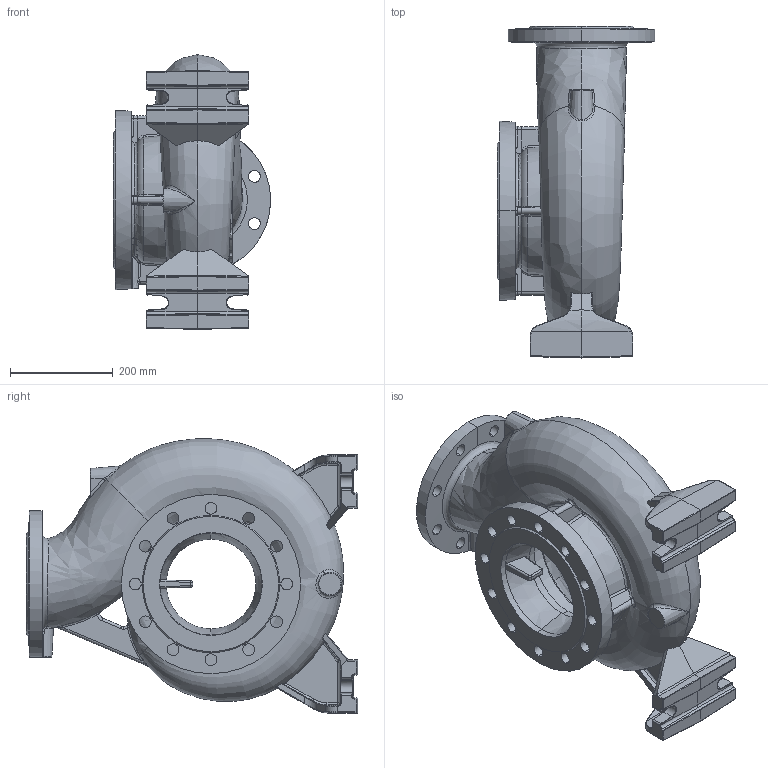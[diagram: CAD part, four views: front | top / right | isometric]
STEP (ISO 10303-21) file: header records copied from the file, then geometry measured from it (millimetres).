
FILE_DESCRIPTION (( 'STEP AP203' ), '1' );
FILE_NAME ('NM 150-200.STEP', '2016-11-10T10:05:09', ( '' ), ( '' ), 'SwSTEP 2.0', 'SolidWorks 2015', '' );
FILE_SCHEMA (( 'CONFIG_CONTROL_DESIGN' ));
Products named in the file (1): NM 150-200
Bounding box: 306.5 x 646.19 x 535.24 mm (x, y, z)
Volume: 12706013.5 mm3; surface area: 1683582.7 mm2
Topology: 3 solids, 3 shells, 968 faces, 2444 edges, 1453 vertices
Faces by surface type: bspline 279, cylinder 210, plane 170, cone 158, torus 120, sphere 31
Entity records: 159606 total; most frequent: CARTESIAN_POINT 139029, ORIENTED_EDGE 4854, DIRECTION 3641, EDGE_CURVE 2427, AXIS2_PLACEMENT_3D 1528, VERTEX_POINT 1453, EDGE_LOOP 1012, FACE_OUTER_BOUND 968
